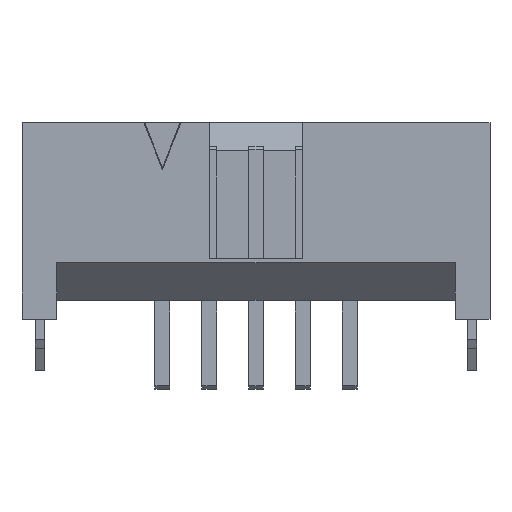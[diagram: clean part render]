
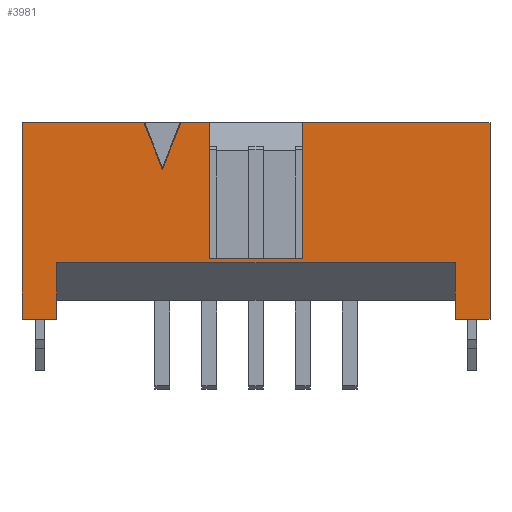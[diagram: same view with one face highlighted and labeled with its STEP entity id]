
A CAD part, top view. The second image highlights one B-rep face of the part: STEP entity #3981.
In plain terms, the highlighted planar face has unit normal (0, 0, 1).
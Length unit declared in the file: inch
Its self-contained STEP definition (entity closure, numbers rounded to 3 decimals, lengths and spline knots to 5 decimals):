
#809=ORIENTED_EDGE('',*,*,#1572,.F.);
#810=ORIENTED_EDGE('',*,*,#1549,.T.);
#811=ORIENTED_EDGE('',*,*,#1538,.T.);
#812=ORIENTED_EDGE('',*,*,#1573,.T.);
#813=ORIENTED_EDGE('',*,*,#1574,.F.);
#814=ORIENTED_EDGE('',*,*,#1575,.F.);
#815=ORIENTED_EDGE('',*,*,#1576,.T.);
#816=ORIENTED_EDGE('',*,*,#1577,.T.);
#817=ORIENTED_EDGE('',*,*,#1578,.T.);
#818=ORIENTED_EDGE('',*,*,#1561,.T.);
#819=ORIENTED_EDGE('',*,*,#1579,.F.);
#820=ORIENTED_EDGE('',*,*,#1580,.F.);
#821=ORIENTED_EDGE('',*,*,#1581,.F.);
#822=ORIENTED_EDGE('',*,*,#1553,.T.);
#823=ORIENTED_EDGE('',*,*,#1582,.F.);
#1538=EDGE_CURVE('',#1979,#1982,#2480,.T.);
#1549=EDGE_CURVE('',#1993,#1979,#2491,.T.);
#1553=EDGE_CURVE('',#1997,#1996,#2495,.T.);
#1561=EDGE_CURVE('',#2005,#2004,#2503,.T.);
#1572=EDGE_CURVE('',#1993,#2013,#2514,.T.);
#1573=EDGE_CURVE('',#1982,#2014,#2515,.T.);
#1574=EDGE_CURVE('',#2015,#2014,#2516,.T.);
#1575=EDGE_CURVE('',#2016,#2015,#2517,.T.);
#1576=EDGE_CURVE('',#2016,#2017,#2518,.T.);
#1577=EDGE_CURVE('',#2017,#2018,#2519,.T.);
#1578=EDGE_CURVE('',#2018,#2005,#2520,.T.);
#1579=EDGE_CURVE('',#2019,#2004,#2521,.T.);
#1580=EDGE_CURVE('',#2020,#2019,#2522,.T.);
#1581=EDGE_CURVE('',#1997,#2020,#2523,.T.);
#1582=EDGE_CURVE('',#2013,#1996,#2524,.T.);
#1979=VERTEX_POINT('',#6007);
#1982=VERTEX_POINT('',#6012);
#1993=VERTEX_POINT('',#6038);
#1996=VERTEX_POINT('',#6044);
#1997=VERTEX_POINT('',#6046);
#2004=VERTEX_POINT('',#6060);
#2005=VERTEX_POINT('',#6062);
#2013=VERTEX_POINT('',#6082);
#2014=VERTEX_POINT('',#6084);
#2015=VERTEX_POINT('',#6086);
#2016=VERTEX_POINT('',#6088);
#2017=VERTEX_POINT('',#6090);
#2018=VERTEX_POINT('',#6092);
#2019=VERTEX_POINT('',#6095);
#2020=VERTEX_POINT('',#6097);
#2480=LINE('',#6013,#3046);
#2491=LINE('',#6037,#3057);
#2495=LINE('',#6045,#3061);
#2503=LINE('',#6061,#3069);
#2514=LINE('',#6081,#3080);
#2515=LINE('',#6083,#3081);
#2516=LINE('',#6085,#3082);
#2517=LINE('',#6087,#3083);
#2518=LINE('',#6089,#3084);
#2519=LINE('',#6091,#3085);
#2520=LINE('',#6093,#3086);
#2521=LINE('',#6094,#3087);
#2522=LINE('',#6096,#3088);
#2523=LINE('',#6098,#3089);
#2524=LINE('',#6099,#3090);
#3046=VECTOR('',#4921,39.37008);
#3057=VECTOR('',#4938,39.37008);
#3061=VECTOR('',#4942,39.37008);
#3069=VECTOR('',#4950,39.37008);
#3080=VECTOR('',#4963,39.37008);
#3081=VECTOR('',#4964,39.37008);
#3082=VECTOR('',#4965,39.37008);
#3083=VECTOR('',#4966,39.37008);
#3084=VECTOR('',#4967,39.37008);
#3085=VECTOR('',#4968,39.37008);
#3086=VECTOR('',#4969,39.37008);
#3087=VECTOR('',#4970,39.37008);
#3088=VECTOR('',#4971,39.37008);
#3089=VECTOR('',#4972,39.37008);
#3090=VECTOR('',#4973,39.37008);
#3373=EDGE_LOOP('',(#809,#810,#811,#812,#813,#814,#815,#816,#817,#818,#819,
#820,#821,#822,#823));
#3577=FACE_BOUND('',#3373,.T.);
#3781=PLANE('',#4221);
#3981=ADVANCED_FACE('',(#3577),#3781,.T.);
#4221=AXIS2_PLACEMENT_3D('',#6080,#4961,#4962);
#4921=DIRECTION('',(0.,-1.,0.));
#4938=DIRECTION('',(-1.,0.,0.));
#4942=DIRECTION('',(-1.,0.,0.));
#4950=DIRECTION('',(-1.,0.,0.));
#4961=DIRECTION('',(0.,0.,1.));
#4962=DIRECTION('',(1.,0.,0.));
#4963=DIRECTION('',(0.371,-0.928,0.));
#4964=DIRECTION('',(1.,0.,0.));
#4965=DIRECTION('',(0.,-1.,0.));
#4966=DIRECTION('',(-1.,0.,0.));
#4967=DIRECTION('',(0.,-1.,0.));
#4968=DIRECTION('',(1.,0.,0.));
#4969=DIRECTION('',(0.,1.,0.));
#4970=DIRECTION('',(0.,1.,0.));
#4971=DIRECTION('',(1.,0.,0.));
#4972=DIRECTION('',(0.,-1.,0.));
#4973=DIRECTION('',(0.371,0.928,0.));
#6007=CARTESIAN_POINT('',(-0.25,0.21,0.1));
#6012=CARTESIAN_POINT('',(-0.25,0.,0.1));
#6013=CARTESIAN_POINT('',(-0.25,0.21,0.1));
#6037=CARTESIAN_POINT('',(0.25,0.21,0.1));
#6038=CARTESIAN_POINT('',(-0.12,0.21,0.1));
#6044=CARTESIAN_POINT('',(-0.08,0.21,0.1));
#6045=CARTESIAN_POINT('',(0.25,0.21,0.1));
#6046=CARTESIAN_POINT('',(-0.05,0.21,0.1));
#6060=CARTESIAN_POINT('',(0.05,0.21,0.1));
#6061=CARTESIAN_POINT('',(0.25,0.21,0.1));
#6062=CARTESIAN_POINT('',(0.25,0.21,0.1));
#6080=CARTESIAN_POINT('',(0.,0.,0.1));
#6081=CARTESIAN_POINT('',(-0.12,0.21,0.1));
#6082=CARTESIAN_POINT('',(-0.1,0.16,0.1));
#6083=CARTESIAN_POINT('',(-0.25,0.,0.1));
#6084=CARTESIAN_POINT('',(-0.213,0.,0.1));
#6085=CARTESIAN_POINT('',(-0.213,0.06,0.1));
#6086=CARTESIAN_POINT('',(-0.213,0.06,0.1));
#6087=CARTESIAN_POINT('',(0.213,0.06,0.1));
#6088=CARTESIAN_POINT('',(0.213,0.06,0.1));
#6089=CARTESIAN_POINT('',(0.213,0.06,0.1));
#6090=CARTESIAN_POINT('',(0.213,0.,0.1));
#6091=CARTESIAN_POINT('',(-0.25,0.,0.1));
#6092=CARTESIAN_POINT('',(0.25,0.,0.1));
#6093=CARTESIAN_POINT('',(0.25,0.,0.1));
#6094=CARTESIAN_POINT('',(0.05,0.065,0.1));
#6095=CARTESIAN_POINT('',(0.05,0.065,0.1));
#6096=CARTESIAN_POINT('',(-0.05,0.065,0.1));
#6097=CARTESIAN_POINT('',(-0.05,0.065,0.1));
#6098=CARTESIAN_POINT('',(-0.05,0.21,0.1));
#6099=CARTESIAN_POINT('',(-0.1,0.16,0.1));
